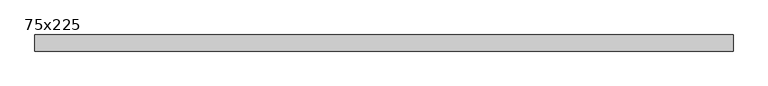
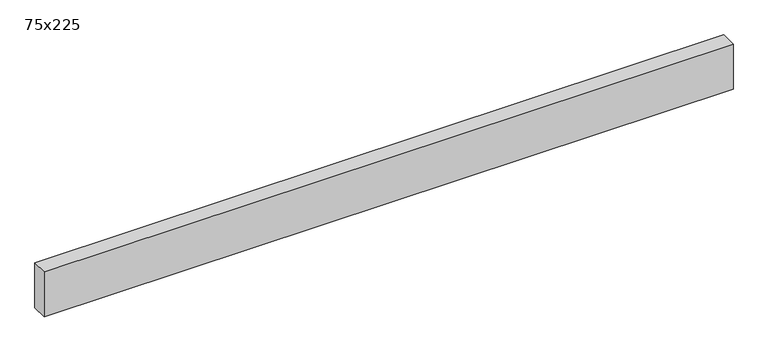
"""IFC4 building model written with IfcOpenShell, lengths in millimetres: beam geometry, Madrier : 75x225."""

from ifc_helpers import new_model, si_unit, frame, origin, place, context, project, spatial, polyline, outline, extrude, source, transform, mapped, element, save


def beam_75x225_075d5b91(model_context):
    return source(origin(), model_context, "Body", "SweptSolid", [
        extrude(outline(polyline([(1621.25, 37.5), (1621.25, -37.5), (-1621.25, -37.5), (-1621.25, 37.5), (1621.25, 37.5)])), frame((0.0, 0.0, -112.5), z_axis=(0.0, 0.0, 1.0), x_axis=(1.0, 0.0, 0.0)), (0.0, 0.0, 1.0), 225.0),
    ])


if __name__ == "__main__":
    model = new_model("IFC4")
    model_context = context("Model", 3, world=origin())
    ifc_project = project(units=[si_unit("LENGTHUNIT", "METRE", prefix="MILLI")], contexts=[model_context])
    site = spatial("IfcSite", under=ifc_project)
    building = spatial("IfcBuilding", under=site)
    placement = place(None, origin())
    beam_75x225_shape = beam_75x225_075d5b91(model_context)
    element("IfcBeam", 1, ObjectType="Madrier : 75x225", at=placement, inside=building, context=model_context, shape_type="MappedRepresentation", body=[
        mapped(beam_75x225_shape, transform((0.0, 0.0, 0.0), x_axis=(1.0, 0.0, 0.0), y_axis=(0.0, 1.0, 0.0), z_axis=(0.0, 0.0, 1.0))),
    ])
    save(model, "model.ifc")
